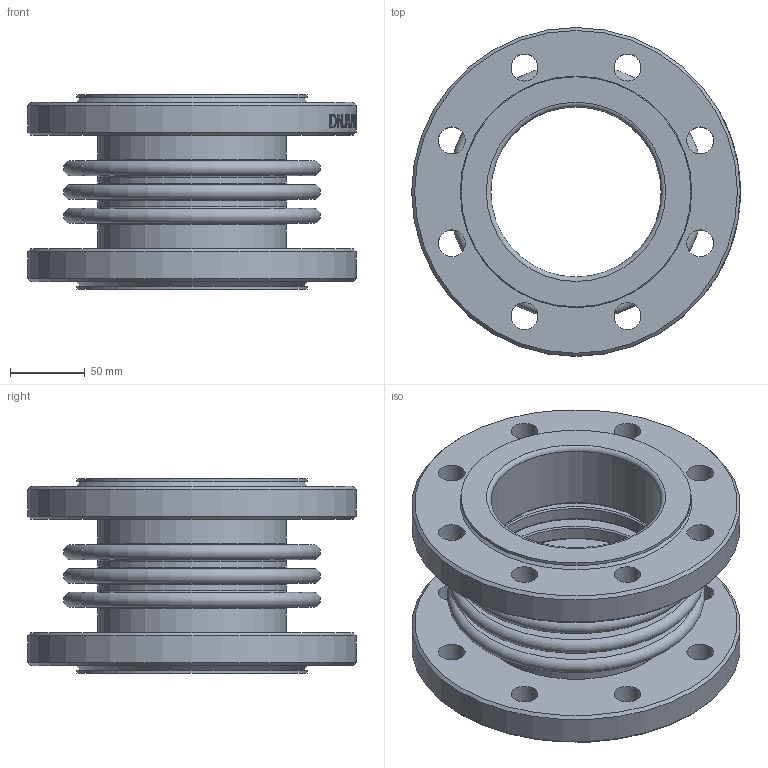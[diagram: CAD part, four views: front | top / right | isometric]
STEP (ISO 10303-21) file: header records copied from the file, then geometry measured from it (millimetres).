
FILE_DESCRIPTION(/* description */ ('D140-02141','CAx-IF Rec.Pracs.---Representation and Presentation of Product Manufacturing Information (PMI)---4.0---2014-10-13'),/* implementation_level */ '2;1');
FILE_NAME(/* name */ '',/* time_stamp */ '2026-04-14T19:11:57+03:00',/* author */ ('DN.RU'),/* organization */ ('DN.RU'),/* preprocessor_version */ 'ST-DEVELOPER v20',/* originating_system */ 'Autodesk Inventor 2025',/* authorisation */ '');
FILE_SCHEMA (('AP242_MANAGED_MODEL_BASED_3D_ENGINEERING_MIM_LF { 1 0 10303 442 1 1 4 }'));
Length unit declared in the file: millimetre
Products named in the file (1): CB-3232P-F
Bounding box: 220 x 220 x 130 mm (x, y, z)
Volume: 1423018 mm3; surface area: 370762.3 mm2
Topology: 1 solids, 1 shells, 276 faces, 699 edges, 466 vertices
Faces by surface type: plane 115, bspline 84, cylinder 51, torus 20, cone 6
Full cylindrical faces by diameter (mm): 18 x16, 114 x2, 122 x2, 126 x4, 132 x2, 154 x2, 220 x2
Entity records: 11489 total; most frequent: CARTESIAN_POINT 4424, ORIENTED_EDGE 1398, DIRECTION 1227, EDGE_CURVE 699, AXIS2_PLACEMENT_3D 468, VERTEX_POINT 466, STYLED_ITEM 353, EDGE_LOOP 351
